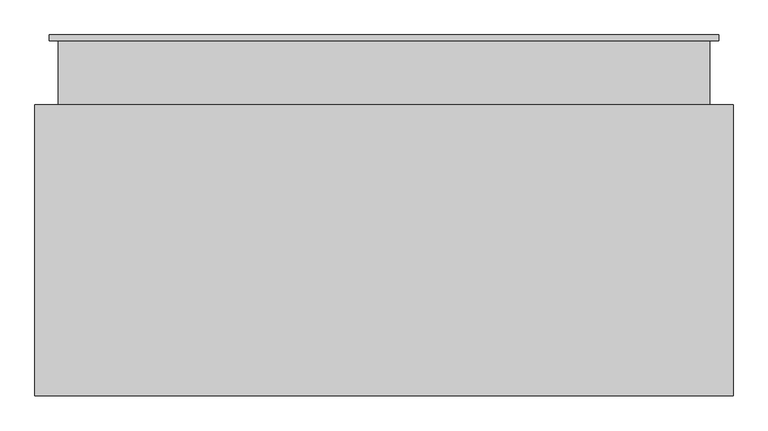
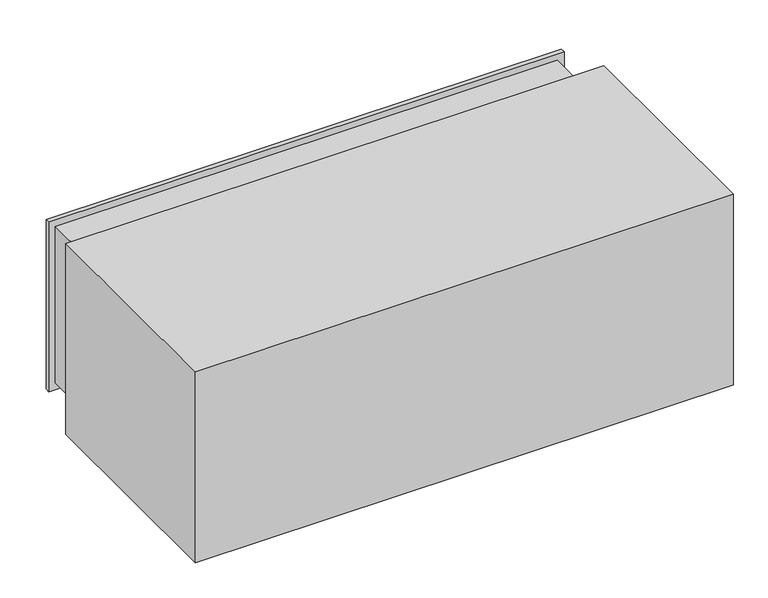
"""IFC4 building model written with IfcOpenShell, lengths in millimetres: air terminal geometry, 020_外気取入ガラリ : 外気取入ガラリ."""

from ifc_helpers import new_model, si_unit, frame, origin, place, context, project, spatial, polyline, outline, extrude, faceted_brep, source, transform, mapped, element, save


def air_terminal_16c77dfc(model_context):
    return source(origin(), model_context, "Body", "SolidModel", [
        extrude(outline(polyline([(-48.0, 126.6666667), (-48.0, 111.6666667), (10.0, 81.6666667), (10.0, 66.6666667), (8.0, 66.6666667), (8.0, 80.4494491), (-50.0, 110.4494491), (-50.0, 126.6666667), (-48.0, 126.6666667)])), frame((-550.0, 0.0, 0.0), z_axis=(1.0, 0.0, 0.0), x_axis=(0.0, 1.0, 0.0)), (0.0, 0.0, 1.0), 1100.0),
        extrude(outline(polyline([(-48.0, 78.3333333), (-48.0, 63.3333333), (10.0, 33.3333333), (10.0, 18.3333333), (8.0, 18.3333333), (8.0, 32.1161157), (-50.0, 62.1161157), (-50.0, 78.3333333), (-48.0, 78.3333333)])), frame((-550.0, 0.0, 0.0), z_axis=(1.0, 0.0, 0.0), x_axis=(0.0, 1.0, 0.0)), (0.0, 0.0, 1.0), 1100.0),
        extrude(outline(polyline([(-48.0, 30.0), (-48.0, 15.0), (10.0, -15.0), (10.0, -30.0), (8.0, -30.0), (8.0, -16.2172176), (-50.0, 13.7827824), (-50.0, 30.0), (-48.0, 30.0)])), frame((-550.0, 0.0, 0.0), z_axis=(1.0, 0.0, 0.0), x_axis=(0.0, 1.0, 0.0)), (0.0, 0.0, 1.0), 1100.0),
        extrude(outline(polyline([(-48.0, -18.3333333), (-48.0, -33.3333333), (10.0, -63.3333333), (10.0, -78.3333333), (8.0, -78.3333333), (8.0, -64.5505509), (-50.0, -34.5505509), (-50.0, -18.3333333), (-48.0, -18.3333333)])), frame((-550.0, 0.0, 0.0), z_axis=(1.0, 0.0, 0.0), x_axis=(0.0, 1.0, 0.0)), (0.0, 0.0, 1.0), 1100.0),
        extrude(outline(polyline([(-48.0, -66.6666667), (-48.0, -81.6666667), (10.0, -111.6666667), (10.0, -126.6666667), (8.0, -126.6666667), (8.0, -112.8838843), (-50.0, -82.8838843), (-50.0, -66.6666667), (-48.0, -66.6666667)])), frame((-550.0, 0.0, 0.0), z_axis=(1.0, 0.0, 0.0), x_axis=(0.0, 1.0, 0.0)), (0.0, 0.0, 1.0), 1100.0),
        extrude(outline(polyline([(-48.0, 175.0), (-48.0, 160.0), (10.0, 130.0), (10.0, 115.0), (8.0, 115.0), (8.0, 128.7827824), (-50.0, 158.7827824), (-50.0, 175.0), (-48.0, 175.0)])), frame((-550.0, 0.0, 0.0), z_axis=(1.0, 0.0, 0.0), x_axis=(0.0, 1.0, 0.0)), (0.0, 0.0, 1.0), 1100.0),
        extrude(outline(polyline([(-48.0, -115.0), (-48.0, -130.0), (10.0, -160.0), (10.0, -175.0), (8.0, -175.0), (8.0, -161.2172176), (-50.0, -131.2172176), (-50.0, -115.0), (-48.0, -115.0)])), frame((-550.0, 0.0, 0.0), z_axis=(1.0, 0.0, 0.0), x_axis=(0.0, 1.0, 0.0)), (0.0, 0.0, 1.0), 1100.0),
        faceted_brep([(550.0, 10.0, 175.0), (550.0, 10.0, -175.0), (550.0, -110.0, -175.0), (550.0, -110.0, 175.0), (575.0, 0.0, 200.0), (575.0, 0.0, -200.0), (575.0, 10.0, -200.0), (575.0, 10.0, 200.0), (560.0, -110.0, 185.0), (560.0, -110.0, -185.0), (560.0, 0.0, -185.0), (560.0, 0.0, 185.0), (-550.0, 10.0, -175.0), (-550.0, -110.0, -175.0), (-575.0, 0.0, -200.0), (-575.0, 10.0, -200.0), (-560.0, -110.0, -185.0), (-560.0, 0.0, -185.0), (-550.0, 10.0, 175.0), (-550.0, -110.0, 175.0), (-575.0, 0.0, 200.0), (-575.0, 10.0, 200.0), (-560.0, -110.0, 185.0), (-560.0, 0.0, 185.0)], [[[0, 1, 2, 3]], [[4, 5, 6, 7]], [[8, 9, 10, 11]], [[1, 12, 13, 2]], [[5, 14, 15, 6]], [[9, 16, 17, 10]], [[12, 18, 19, 13]], [[14, 20, 21, 15]], [[16, 22, 23, 17]], [[18, 0, 3, 19]], [[7, 6, 15, 21], [1, 0, 18, 12]], [[20, 4, 7, 21]], [[5, 4, 20, 14], [11, 10, 17, 23]], [[22, 8, 11, 23]], [[9, 8, 22, 16], [3, 2, 13, 19]]]),
        extrude(outline(polyline([(550.0, 0.0), (550.0, -10.0), (-550.0, -10.0), (-550.0, 0.0), (550.0, 0.0)])), frame((0.0, 0.0, -175.0), z_axis=(0.0, 0.0, 1.0), x_axis=(1.0, 0.0, 0.0)), (0.0, 0.0, 1.0), 350.0),
        extrude(outline(polyline([(600.0, -110.0), (600.0, -610.0), (-600.0, -610.0), (-600.0, -110.0), (600.0, -110.0)])), frame((0.0, 0.0, -225.0), z_axis=(0.0, 0.0, 1.0), x_axis=(1.0, 0.0, 0.0)), (0.0, 0.0, 1.0), 450.0),
    ])


if __name__ == "__main__":
    model = new_model("IFC4")
    model_context = context("Model", 3, world=origin())
    ifc_project = project(units=[si_unit("LENGTHUNIT", "METRE", prefix="MILLI")], contexts=[model_context])
    site = spatial("IfcSite", under=ifc_project)
    building = spatial("IfcBuilding", under=site)
    placement = place(None, origin())
    air_terminal_shape = air_terminal_16c77dfc(model_context)
    element("IfcAirTerminal", 1, ObjectType="020_外気取入ガラリ : 外気取入ガラリ", at=placement, inside=building, context=model_context, shape_type="MappedRepresentation", body=[
        mapped(air_terminal_shape, transform((0.0, 0.0, 0.0), x_axis=(1.0, 0.0, 0.0), y_axis=(0.0, 1.0, 0.0), z_axis=(0.0, 0.0, 1.0))),
    ])
    save(model, "model.ifc")
